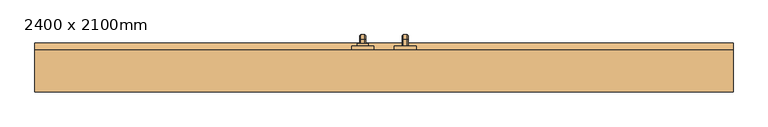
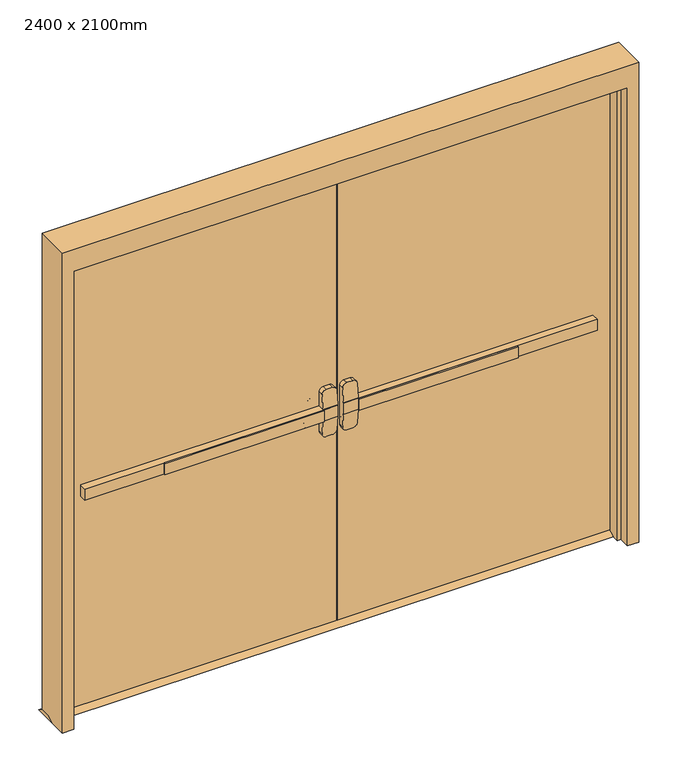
"""IFC4 building model written with IfcOpenShell, lengths in millimetres: door geometry, Дверь-Наружная-Двойная : 2400 x 2100mm."""

from ifc_helpers import new_model, si_unit, point, frame, frame_2d, origin, place, context, project, spatial, polyline, circle_curve, ellipse_curve, trimmed, segment, composite_curve, outline, extrude, faceted_brep, source, transform, mapped, element, save
from ifc_brep_helpers import plane_surface, cylinder_surface, revolved_surface, advanced_brep


def door_2400_x_2100mm_f4c4263e(model_context):
    return source(origin(), model_context, "Body", "SolidModel", [
        extrude(outline(polyline([(-766.1333333, 108.25), (-766.1333333, 114.6), (-76.2, 114.6), (-76.2, 108.25), (-766.1333333, 108.25)])), frame((0.0, 0.0, 974.6), z_axis=(0.0, 0.0, 1.0), x_axis=(1.0, 0.0, 0.0)), (0.0, 0.0, 1.0), 50.8),
        advanced_brep(
        [(-12.7, 114.6, 1025.4), (-76.2, 114.6, 1025.4), (-1111.1, 114.6, 1025.4), (-1111.1, 114.6, 974.6), (-76.2, 114.6, 974.6), (-12.7, 114.6, 974.6), (-1111.1, 146.35, 1025.4), (-76.2, 146.35, 1025.4), (-76.2, 146.35, 1088.9), (-57.15, 146.35, 1107.95), (-31.75, 146.35, 1107.95), (-12.7, 146.35, 1088.9), (-12.7, 146.35, 911.1), (-31.75, 146.35, 892.05), (-57.15, 146.35, 892.05), (-76.2, 146.35, 911.1), (-76.2, 146.35, 974.6), (-1111.1, 146.35, 974.6), (-12.7, 117.7752467, 1025.4), (-76.2, 117.7752467, 1025.4), (-12.7, 117.7752467, 974.6), (-12.7, 122.7854269, 911.1), (-12.7, 122.7854269, 1088.9), (-76.2, 117.7752467, 974.6), (-76.2, 122.7854269, 1088.9), (-76.2, 122.7854269, 911.1), (-57.15, 124.288481, 1107.95), (-31.75, 124.288481, 1107.95), (-31.75, 124.288481, 892.05), (-57.15, 124.288481, 892.05)],
        [
            (0, 1),
            (1, 2),
            (2, 3),
            (3, 4),
            (4, 5),
            (5, 0),
            (6, 7),
            (7, 8),
            (8, 9, circle_curve(frame((-57.15, 146.35, 1088.9), z_axis=(0.0, 1.0, 0.0), x_axis=(-1.0, 0.0, 0.0)), 19.05)),
            (9, 10),
            (10, 11, circle_curve(frame((-31.75, 146.35, 1088.9), z_axis=(0.0, 1.0, 0.0), x_axis=(-1.0, 0.0, 0.0)), 19.05)),
            (11, 12),
            (12, 13, circle_curve(frame((-31.75, 146.35, 911.1), z_axis=(0.0, 1.0, 0.0), x_axis=(-1.0, 0.0, 0.0)), 19.05)),
            (13, 14),
            (14, 15, circle_curve(frame((-57.15, 146.35, 911.1), z_axis=(0.0, 1.0, 0.0), x_axis=(-1.0, 0.0, 0.0)), 19.05)),
            (15, 16),
            (16, 17),
            (17, 6),
            (0, 18),
            (18, 19),
            (19, 7),
            (6, 2),
            (5, 20),
            (20, 21),
            (21, 12),
            (11, 22),
            (22, 18),
            (16, 23),
            (23, 20),
            (3, 17),
            (19, 24),
            (24, 8),
            (15, 25),
            (25, 23),
            (9, 26),
            (26, 27),
            (27, 10),
            (13, 28),
            (28, 29),
            (29, 14),
            (29, 25, ellipse_curve(frame((-57.15, 122.7854269, 911.1), z_axis=(0.0, 0.9969018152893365, 0.07865602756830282), x_axis=(0.0, -0.07865602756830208, 0.9969018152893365)), 19.1092038, 19.05)),
            (24, 26, ellipse_curve(frame((-57.15, 122.7854269, 1088.9), z_axis=(0.0, 0.9969018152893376, -0.07865602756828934), x_axis=(0.0, -0.078656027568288, -0.9969018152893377)), 19.1092038, 19.05)),
            (27, 22, ellipse_curve(frame((-31.75, 122.7854269, 1088.9), z_axis=(0.0, 0.9969018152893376, -0.07865602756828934), x_axis=(0.0, -0.078656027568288, -0.9969018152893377)), 19.1092038, 19.05)),
            (21, 28, ellipse_curve(frame((-31.75, 122.7854269, 911.1), z_axis=(0.0, 0.9969018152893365, 0.07865602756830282), x_axis=(0.0, -0.07865602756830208, 0.9969018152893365)), 19.1092038, 19.05)),
        ],
        [
            plane_surface(frame((-12.7, 114.6, 1025.4), z_axis=(0.0, -1.0, 0.0), x_axis=(1.0, 0.0, 0.0))),
            plane_surface(frame((-12.7, 146.35, 1025.4), z_axis=(0.0, 1.0, 0.0), x_axis=(-1.0, 0.0, 0.0))),
            plane_surface(frame((-1111.1, 114.6, 1025.4), z_axis=(0.0, 0.0, 1.0), x_axis=(0.0, 1.0, 0.0))),
            plane_surface(frame((-12.7, 114.6, 1025.4), z_axis=(1.0, 0.0, 0.0), x_axis=(0.0, 1.0, 0.0))),
            plane_surface(frame((-12.7, 114.6, 974.6), z_axis=(0.0, 0.0, -1.0), x_axis=(0.0, 1.0, 0.0))),
            plane_surface(frame((-1111.1, 114.6, 974.6), z_axis=(-1.0, 0.0, 0.0), x_axis=(0.0, 1.0, 0.0))),
            plane_surface(frame((-76.2, 117.7752467, 911.1), z_axis=(-1.0, 0.0, 0.0), x_axis=(0.0, 1.0, 0.0))),
            plane_surface(frame((-57.15, 117.7752467, 1107.95), z_axis=(0.0, 0.0, 1.0), x_axis=(0.0, 1.0, 0.0))),
            plane_surface(frame((-31.75, 117.7752467, 892.05), z_axis=(0.0, 0.0, -1.0), x_axis=(0.0, 1.0, 0.0))),
            cylinder_surface(frame((-57.15, 146.35, 911.1), z_axis=(0.0, -1.0, 0.0), x_axis=(-1.0, 0.0, 0.0)), 19.05),
            cylinder_surface(frame((-57.15, 146.35, 1088.9), z_axis=(0.0, -1.0, 0.0), x_axis=(-1.0, 0.0, 0.0)), 19.05),
            cylinder_surface(frame((-31.75, 146.35, 1088.9), z_axis=(0.0, -1.0, 0.0), x_axis=(-1.0, 0.0, 0.0)), 19.05),
            cylinder_surface(frame((-31.75, 146.35, 911.1), z_axis=(0.0, -1.0, 0.0), x_axis=(-1.0, 0.0, 0.0)), 19.05),
            plane_surface(frame((-76.2, 117.7752467, 1025.4), z_axis=(0.0, -0.9969018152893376, 0.07865602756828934), x_axis=(1.0, 0.0, 0.0))),
            plane_surface(frame((-76.2, 124.288481, 892.05), z_axis=(0.0, -0.9969018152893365, -0.07865602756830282), x_axis=(1.0, 0.0, 0.0))),
        ],
        [
            (0, [[1, 2, 3, 4, 5, 6]]),
            (1, [[7, 8, 9, 10, 11, 12, 13, 14, 15, 16, 17, 18]]),
            (2, [[-2, -1, 19, 20, 21, -7, 22]]),
            (3, [[23, 24, 25, -12, 26, 27, -19, -6]]),
            (4, [[-17, 28, 29, -23, -5, -4, 30]]),
            (5, [[-22, -18, -30, -3]]),
            (6, [[-21, 31, 32, -8]]),
            (6, [[33, 34, -28, -16]]),
            (7, [[35, 36, 37, -10]]),
            (8, [[38, 39, 40, -14]]),
            (9, [[-40, 41, -33, -15]]),
            (10, [[-32, 42, -35, -9]]),
            (11, [[-37, 43, -26, -11]]),
            (12, [[-25, 44, -38, -13]]),
            (13, [[-27, -43, -36, -42, -31, -20]]),
            (14, [[-29, -34, -41, -39, -44, -24]]),
        ],
    ),
        extrude(outline(polyline([(191.35, 15.0), (216.75, 0.0), (120.95, 0.0), (146.35, 15.0), (191.35, 15.0)])), frame((-1250.0, 0.0, 0.0), z_axis=(1.0, 0.0, 0.0), x_axis=(0.0, 1.0, 0.0)), (0.0, 0.0, 1.0), 2500.0),
        extrude(outline(polyline([(766.1333333, 108.25), (76.2, 108.25), (76.2, 114.6), (766.1333333, 114.6), (766.1333333, 108.25)])), frame((0.0, 0.0, 974.6), z_axis=(0.0, 0.0, 1.0), x_axis=(1.0, 0.0, 0.0)), (0.0, 0.0, 1.0), 50.8),
        advanced_brep(
        [(12.7, 114.6, 1025.4), (12.7, 114.6, 974.6), (76.2, 114.6, 974.6), (1111.1, 114.6, 974.6), (1111.1, 114.6, 1025.4), (76.2, 114.6, 1025.4), (1111.1, 146.35, 1025.4), (1111.1, 146.35, 974.6), (76.2, 146.35, 974.6), (76.2, 146.35, 911.1), (57.15, 146.35, 892.05), (31.75, 146.35, 892.05), (12.7, 146.35, 911.1), (12.7, 146.35, 1088.9), (31.75, 146.35, 1107.95), (57.15, 146.35, 1107.95), (76.2, 146.35, 1088.9), (76.2, 146.35, 1025.4), (76.2, 117.7752467, 1025.4), (12.7, 117.7752467, 1025.4), (12.7, 122.7854269, 1088.9), (12.7, 122.7854269, 911.1), (12.7, 117.7752467, 974.6), (76.2, 117.7752467, 974.6), (76.2, 122.7854269, 911.1), (76.2, 122.7854269, 1088.9), (31.75, 124.288481, 1107.95), (57.15, 124.288481, 1107.95), (57.15, 124.288481, 892.05), (31.75, 124.288481, 892.05)],
        [
            (0, 1),
            (1, 2),
            (2, 3),
            (3, 4),
            (4, 5),
            (5, 0),
            (6, 7),
            (7, 8),
            (8, 9),
            (9, 10, circle_curve(frame((57.15, 146.35, 911.1), z_axis=(0.0, 1.0, 0.0), x_axis=(1.0, 0.0, 0.0)), 19.05)),
            (10, 11),
            (11, 12, circle_curve(frame((31.75, 146.35, 911.1), z_axis=(0.0, 1.0, 0.0), x_axis=(1.0, 0.0, 0.0)), 19.05)),
            (12, 13),
            (13, 14, circle_curve(frame((31.75, 146.35, 1088.9), z_axis=(0.0, 1.0, 0.0), x_axis=(1.0, 0.0, 0.0)), 19.05)),
            (14, 15),
            (15, 16, circle_curve(frame((57.15, 146.35, 1088.9), z_axis=(0.0, 1.0, 0.0), x_axis=(1.0, 0.0, 0.0)), 19.05)),
            (16, 17),
            (17, 6),
            (4, 6),
            (17, 18),
            (18, 19),
            (19, 0),
            (19, 20),
            (20, 13),
            (12, 21),
            (21, 22),
            (22, 1),
            (7, 3),
            (22, 23),
            (23, 8),
            (23, 24),
            (24, 9),
            (16, 25),
            (25, 18),
            (14, 26),
            (26, 27),
            (27, 15),
            (10, 28),
            (28, 29),
            (29, 11),
            (24, 28, ellipse_curve(frame((57.15, 122.7854269, 911.1), z_axis=(0.0, 0.9969018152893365, 0.07865602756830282), x_axis=(0.0, -0.07865602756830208, 0.9969018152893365)), 19.1092038, 19.05)),
            (27, 25, ellipse_curve(frame((57.15, 122.7854269, 1088.9), z_axis=(0.0, 0.9969018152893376, -0.07865602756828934), x_axis=(0.0, -0.078656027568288, -0.9969018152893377)), 19.1092038, 19.05)),
            (20, 26, ellipse_curve(frame((31.75, 122.7854269, 1088.9), z_axis=(0.0, 0.9969018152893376, -0.07865602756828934), x_axis=(0.0, -0.078656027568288, -0.9969018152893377)), 19.1092038, 19.05)),
            (29, 21, ellipse_curve(frame((31.75, 122.7854269, 911.1), z_axis=(0.0, 0.9969018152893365, 0.07865602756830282), x_axis=(0.0, -0.07865602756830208, 0.9969018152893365)), 19.1092038, 19.05)),
        ],
        [
            plane_surface(frame((12.7, 114.6, 1025.4), z_axis=(0.0, -1.0, 0.0), x_axis=(-1.0, 0.0, 0.0))),
            plane_surface(frame((12.7, 146.35, 1025.4), z_axis=(0.0, 1.0, 0.0), x_axis=(1.0, 0.0, 0.0))),
            plane_surface(frame((1111.1, 114.6, 1025.4), z_axis=(0.0, 0.0, 1.0), x_axis=(0.0, 1.0, 0.0))),
            plane_surface(frame((12.7, 114.6, 1025.4), z_axis=(-1.0, 0.0, 0.0), x_axis=(0.0, 1.0, 0.0))),
            plane_surface(frame((12.7, 114.6, 974.6), z_axis=(0.0, 0.0, -1.0), x_axis=(0.0, 1.0, 0.0))),
            plane_surface(frame((1111.1, 114.6, 974.6), z_axis=(1.0, 0.0, 0.0), x_axis=(0.0, 1.0, 0.0))),
            plane_surface(frame((76.2, 117.7752467, 911.1), z_axis=(1.0, 0.0, 0.0), x_axis=(0.0, 1.0, 0.0))),
            plane_surface(frame((57.15, 117.7752467, 1107.95), z_axis=(0.0, 0.0, 1.0), x_axis=(0.0, 1.0, 0.0))),
            plane_surface(frame((31.75, 117.7752467, 892.05), z_axis=(0.0, 0.0, -1.0), x_axis=(0.0, 1.0, 0.0))),
            cylinder_surface(frame((57.15, 146.35, 911.1), z_axis=(0.0, -1.0, 0.0), x_axis=(1.0, 0.0, 0.0)), 19.05),
            cylinder_surface(frame((57.15, 146.35, 1088.9), z_axis=(0.0, -1.0, 0.0), x_axis=(1.0, 0.0, 0.0)), 19.05),
            cylinder_surface(frame((31.75, 146.35, 1088.9), z_axis=(0.0, -1.0, 0.0), x_axis=(1.0, 0.0, 0.0)), 19.05),
            cylinder_surface(frame((31.75, 146.35, 911.1), z_axis=(0.0, -1.0, 0.0), x_axis=(1.0, 0.0, 0.0)), 19.05),
            plane_surface(frame((76.2, 117.7752467, 1025.4), z_axis=(0.0, -0.9969018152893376, 0.07865602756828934), x_axis=(-1.0, 0.0, 0.0))),
            plane_surface(frame((76.2, 124.288481, 892.05), z_axis=(0.0, -0.9969018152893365, -0.07865602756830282), x_axis=(-1.0, 0.0, 0.0))),
        ],
        [
            (0, [[1, 2, 3, 4, 5, 6]]),
            (1, [[7, 8, 9, 10, 11, 12, 13, 14, 15, 16, 17, 18]]),
            (2, [[19, -18, 20, 21, 22, -6, -5]]),
            (3, [[-1, -22, 23, 24, -13, 25, 26, 27]]),
            (4, [[28, -3, -2, -27, 29, 30, -8]]),
            (5, [[-4, -28, -7, -19]]),
            (6, [[-9, -30, 31, 32]]),
            (6, [[-17, 33, 34, -20]]),
            (7, [[-15, 35, 36, 37]]),
            (8, [[-11, 38, 39, 40]]),
            (9, [[-10, -32, 41, -38]]),
            (10, [[-16, -37, 42, -33]]),
            (11, [[-14, -24, 43, -35]]),
            (12, [[-12, -40, 44, -25]]),
            (13, [[-21, -34, -42, -36, -43, -23]]),
            (14, [[-26, -44, -39, -41, -31, -29]]),
        ],
    ),
        advanced_brep(
        [(66.2, 204.05, 1001.190625), (66.2, 204.05, 998.809375), (69.771875, 204.05, 995.2375), (82.6284594, 204.05, 995.2375), (86.2, 204.05, 998.8090406), (86.2, 204.05, 1001.190625), (82.628125, 204.05, 1004.7625), (69.771875, 204.05, 1004.7625), (66.2, 204.05, 874.609375), (69.771875, 204.05, 871.0375), (82.628125, 204.05, 871.0375), (86.2, 204.05, 874.609375), (86.2, 204.05, 876.9909594), (82.6284594, 204.05, 880.5625), (69.771875, 204.05, 880.5625), (66.2, 204.05, 876.990625), (66.2, 229.45, 1001.190625), (66.2, 243.340625, 987.3), (66.2, 243.340625, 888.5), (66.2, 229.45, 874.609375), (66.2, 229.45, 876.990625), (66.2, 240.959375, 888.5), (66.2, 240.959375, 987.3), (66.2, 229.45, 998.809375), (69.771875, 229.45, 995.2375), (82.6284594, 229.45, 995.2375), (86.2, 229.45, 998.8090406), (86.2, 240.9590406, 987.3), (86.2, 240.9590406, 888.5), (86.2, 229.45, 876.9909594), (86.2, 229.45, 874.609375), (86.2, 243.340625, 888.5), (86.2, 243.340625, 987.3), (86.2, 229.45, 1001.190625), (82.628125, 229.45, 1004.7625), (69.771875, 229.45, 1004.7625), (69.771875, 237.3875, 987.3), (82.6284594, 237.3875, 987.3), (82.628125, 246.9125, 987.3), (69.771875, 246.9125, 987.3), (69.771875, 237.3875, 888.5), (82.6284594, 237.3875, 888.5), (82.628125, 246.9125, 888.5), (69.771875, 246.9125, 888.5), (69.771875, 229.45, 880.5625), (82.6284594, 229.45, 880.5625), (82.628125, 229.45, 871.0375), (69.771875, 229.45, 871.0375)],
        [
            (0, 1),
            (1, 2, circle_curve(frame((69.771875, 204.05, 998.809375), z_axis=(0.0, -1.0, 0.0), x_axis=(0.0, 0.0, 1.0)), 3.571875)),
            (2, 3),
            (3, 4, circle_curve(frame((82.6284594, 204.05, 998.8090406), z_axis=(0.0, -1.0, 0.0), x_axis=(0.0, 0.0, 1.0)), 3.5715406)),
            (4, 5),
            (5, 6, circle_curve(frame((82.628125, 204.05, 1001.190625), z_axis=(0.0, -1.0, 0.0), x_axis=(0.0, 0.0, 1.0)), 3.571875)),
            (6, 7),
            (7, 0, circle_curve(frame((69.771875, 204.05, 1001.190625), z_axis=(0.0, -1.0, 0.0), x_axis=(0.0, 0.0, 1.0)), 3.571875)),
            (8, 9, circle_curve(frame((69.771875, 204.05, 874.609375), z_axis=(0.0, -1.0, 0.0), x_axis=(0.0, 0.0, -1.0)), 3.571875)),
            (9, 10),
            (10, 11, circle_curve(frame((82.628125, 204.05, 874.609375), z_axis=(0.0, -1.0, 0.0), x_axis=(0.0, 0.0, -1.0)), 3.571875)),
            (11, 12),
            (12, 13, circle_curve(frame((82.6284594, 204.05, 876.9909594), z_axis=(0.0, -1.0, 0.0), x_axis=(0.0, 0.0, -1.0)), 3.5715406)),
            (13, 14),
            (14, 15, circle_curve(frame((69.771875, 204.05, 876.990625), z_axis=(0.0, -1.0, 0.0), x_axis=(0.0, 0.0, -1.0)), 3.571875)),
            (15, 8),
            (0, 16),
            (16, 17, circle_curve(frame((66.2, 229.45, 987.3), z_axis=(-1.0, 0.0, 0.0), x_axis=(0.0, 0.0, 1.0)), 13.890625)),
            (17, 18),
            (18, 19, circle_curve(frame((66.2, 229.45, 888.5), z_axis=(-1.0, 0.0, 0.0), x_axis=(0.0, 1.0, 0.0)), 13.890625)),
            (19, 8),
            (15, 20),
            (20, 21, circle_curve(frame((66.2, 229.45, 888.5), z_axis=(1.0, 0.0, 0.0), x_axis=(0.0, 1.0, 0.0)), 11.509375)),
            (21, 22),
            (22, 23, circle_curve(frame((66.2, 229.45, 987.3), z_axis=(1.0, 0.0, 0.0), x_axis=(0.0, 0.0, 1.0)), 11.509375)),
            (23, 1),
            (23, 24, circle_curve(frame((69.771875, 229.45, 998.809375), z_axis=(0.0, -1.0, 0.0), x_axis=(0.0, 0.0, 1.0)), 3.571875)),
            (24, 2),
            (24, 25),
            (25, 3),
            (25, 26, circle_curve(frame((82.6284594, 229.45, 998.8090406), z_axis=(0.0, -1.0, 0.0), x_axis=(0.0, 0.0, 1.0)), 3.5715406)),
            (26, 4),
            (26, 27, circle_curve(frame((86.2, 229.45, 987.3), z_axis=(-1.0, 0.0, 0.0), x_axis=(0.0, 0.0, 1.0)), 11.5090406)),
            (27, 28),
            (28, 29, circle_curve(frame((86.2, 229.45, 888.5), z_axis=(-1.0, 0.0, 0.0), x_axis=(0.0, 1.0, 0.0)), 11.5090406)),
            (29, 12),
            (11, 30),
            (30, 31, circle_curve(frame((86.2, 229.45, 888.5), z_axis=(1.0, 0.0, 0.0), x_axis=(0.0, 1.0, 0.0)), 13.890625)),
            (31, 32),
            (32, 33, circle_curve(frame((86.2, 229.45, 987.3), z_axis=(1.0, 0.0, 0.0), x_axis=(0.0, 0.0, 1.0)), 13.890625)),
            (33, 5),
            (33, 34, circle_curve(frame((82.628125, 229.45, 1001.190625), z_axis=(0.0, -1.0, 0.0), x_axis=(0.0, 0.0, 1.0)), 3.571875)),
            (34, 6),
            (34, 35),
            (35, 7),
            (35, 16, circle_curve(frame((69.771875, 229.45, 1001.190625), z_axis=(0.0, -1.0, 0.0), x_axis=(0.0, 0.0, 1.0)), 3.571875)),
            (36, 24, circle_curve(frame((69.771875, 229.45, 987.3), z_axis=(1.0, 0.0, 0.0), x_axis=(0.0, 0.0, 1.0)), 7.9375)),
            (22, 36, circle_curve(frame((69.771875, 240.959375, 987.3), z_axis=(0.0, 0.0, 1.0), x_axis=(0.0, 1.0, 0.0)), 3.571875)),
            (37, 25, circle_curve(frame((82.6284594, 229.45, 987.3), z_axis=(1.0, 0.0, 0.0), x_axis=(0.0, 0.0, 1.0)), 7.9375)),
            (36, 37),
            (37, 27, circle_curve(frame((82.6284594, 240.9590406, 987.3), z_axis=(0.0, 0.0, 1.0), x_axis=(0.0, 1.0, 0.0)), 3.5715406)),
            (38, 34, circle_curve(frame((82.628125, 229.45, 987.3), z_axis=(1.0, 0.0, 0.0), x_axis=(0.0, 0.0, 1.0)), 17.4625)),
            (32, 38, circle_curve(frame((82.628125, 243.340625, 987.3), z_axis=(0.0, 0.0, 1.0), x_axis=(0.0, 1.0, 0.0)), 3.571875)),
            (39, 35, circle_curve(frame((69.771875, 229.45, 987.3), z_axis=(1.0, 0.0, 0.0), x_axis=(0.0, 0.0, 1.0)), 17.4625)),
            (38, 39),
            (39, 17, circle_curve(frame((69.771875, 243.340625, 987.3), z_axis=(0.0, 0.0, 1.0), x_axis=(0.0, 1.0, 0.0)), 3.571875)),
            (21, 40, circle_curve(frame((69.771875, 240.959375, 888.5), z_axis=(0.0, 0.0, 1.0), x_axis=(0.0, 1.0, 0.0)), 3.571875)),
            (40, 36),
            (40, 41),
            (41, 37),
            (41, 28, circle_curve(frame((82.6284594, 240.9590406, 888.5), z_axis=(0.0, 0.0, 1.0), x_axis=(0.0, 1.0, 0.0)), 3.5715406)),
            (31, 42, circle_curve(frame((82.628125, 243.340625, 888.5), z_axis=(0.0, 0.0, 1.0), x_axis=(0.0, 1.0, 0.0)), 3.571875)),
            (42, 38),
            (42, 43),
            (43, 39),
            (43, 18, circle_curve(frame((69.771875, 243.340625, 888.5), z_axis=(0.0, 0.0, 1.0), x_axis=(0.0, 1.0, 0.0)), 3.571875)),
            (44, 40, circle_curve(frame((69.771875, 229.45, 888.5), z_axis=(1.0, 0.0, 0.0), x_axis=(0.0, 1.0, 0.0)), 7.9375)),
            (20, 44, circle_curve(frame((69.771875, 229.45, 876.990625), z_axis=(0.0, 1.0, 0.0), x_axis=(0.0, 0.0, -1.0)), 3.571875)),
            (45, 41, circle_curve(frame((82.6284594, 229.45, 888.5), z_axis=(1.0, 0.0, 0.0), x_axis=(0.0, 1.0, 0.0)), 7.9375)),
            (44, 45),
            (45, 29, circle_curve(frame((82.6284594, 229.45, 876.9909594), z_axis=(0.0, 1.0, 0.0), x_axis=(0.0, 0.0, -1.0)), 3.5715406)),
            (46, 42, circle_curve(frame((82.628125, 229.45, 888.5), z_axis=(1.0, 0.0, 0.0), x_axis=(0.0, 1.0, 0.0)), 17.4625)),
            (30, 46, circle_curve(frame((82.628125, 229.45, 874.609375), z_axis=(0.0, 1.0, 0.0), x_axis=(0.0, 0.0, -1.0)), 3.571875)),
            (47, 43, circle_curve(frame((69.771875, 229.45, 888.5), z_axis=(1.0, 0.0, 0.0), x_axis=(0.0, 1.0, 0.0)), 17.4625)),
            (46, 47),
            (47, 19, circle_curve(frame((69.771875, 229.45, 874.609375), z_axis=(0.0, 1.0, 0.0), x_axis=(0.0, 0.0, -1.0)), 3.571875)),
            (14, 44),
            (13, 45),
            (10, 46),
            (9, 47),
        ],
        [
            plane_surface(frame((76.2, 204.05, 1000.0), z_axis=(0.0, -1.0, 0.0), x_axis=(1.0, 0.0, 0.0))),
            plane_surface(frame((76.2, 204.05, 875.8), z_axis=(0.0, -1.0, 0.0), x_axis=(1.0, 0.0, 0.0))),
            plane_surface(frame((66.2, 204.05, 1001.190625), z_axis=(-1.0, 0.0, 0.0), x_axis=(0.0, 1.0, 0.0))),
            cylinder_surface(frame((69.771875, 204.05, 998.809375), z_axis=(0.0, -1.0, 0.0), x_axis=(0.0, 0.0, 1.0)), 3.571875),
            plane_surface(frame((69.771875, 204.05, 995.2375), z_axis=(0.0, 0.0, -1.0), x_axis=(0.0, 1.0, 0.0))),
            cylinder_surface(frame((82.6284594, 204.05, 998.8090406), z_axis=(0.0, -1.0, 0.0), x_axis=(0.0, 0.0, 1.0)), 3.5715406),
            plane_surface(frame((86.2, 204.05, 998.8090406), z_axis=(1.0, 0.0, 0.0), x_axis=(0.0, 1.0, 0.0))),
            cylinder_surface(frame((82.628125, 204.05, 1001.190625), z_axis=(0.0, -1.0, 0.0), x_axis=(0.0, 0.0, 1.0)), 3.571875),
            plane_surface(frame((82.628125, 204.05, 1004.7625), z_axis=(0.0, 0.0, 1.0), x_axis=(0.0, 1.0, 0.0))),
            cylinder_surface(frame((69.771875, 204.05, 1001.190625), z_axis=(0.0, -1.0, 0.0), x_axis=(0.0, 0.0, 1.0)), 3.571875),
            revolved_surface(trimmed(ellipse_curve(frame((69.771875, 229.45, 998.809375), z_axis=(0.0, -1.0, 0.0), x_axis=(0.0, 0.0, 1.0)), 3.571875, 3.571875), [point((66.2, 229.45, 998.809375))], [point((69.771875, 229.45, 995.2375))], True, "CARTESIAN"), (76.2, 229.45, 987.3), (-1.0, 0.0, 0.0)),
            revolved_surface(polyline([(69.771875, 229.45, 995.2375), (82.6284594, 229.45, 995.2375)]), (76.2, 229.45, 987.3), (-1.0, 0.0, 0.0)),
            revolved_surface(trimmed(ellipse_curve(frame((82.6284594, 229.45, 998.8090406), z_axis=(0.0, -1.0, 0.0), x_axis=(0.0, 0.0, 1.0)), 3.5715406, 3.5715406), [point((82.6284594, 229.45, 995.2375))], [point((86.2, 229.45, 998.8090406))], True, "CARTESIAN"), (76.2, 229.45, 987.3), (-1.0, 0.0, 0.0)),
            revolved_surface(trimmed(ellipse_curve(frame((82.628125, 229.45, 1001.190625), z_axis=(0.0, -1.0, 0.0), x_axis=(0.0, 0.0, 1.0)), 3.571875, 3.571875), [point((86.2, 229.45, 1001.190625))], [point((82.628125, 229.45, 1004.7625))], True, "CARTESIAN"), (76.2, 229.45, 987.3), (-1.0, 0.0, 0.0)),
            cylinder_surface(frame((76.2, 229.45, 987.3), z_axis=(-1.0, 0.0, 0.0), x_axis=(0.0, 0.0, 1.0)), 17.4625),
            revolved_surface(trimmed(ellipse_curve(frame((69.771875, 229.45, 1001.190625), z_axis=(0.0, -1.0, 0.0), x_axis=(0.0, 0.0, 1.0)), 3.571875, 3.571875), [point((69.771875, 229.45, 1004.7625))], [point((66.2, 229.45, 1001.190625))], True, "CARTESIAN"), (76.2, 229.45, 987.3), (-1.0, 0.0, 0.0)),
            cylinder_surface(frame((69.771875, 240.959375, 987.3), z_axis=(0.0, 0.0, 1.0), x_axis=(0.0, 1.0, 0.0)), 3.571875),
            plane_surface(frame((69.771875, 237.3875, 987.3), z_axis=(0.0, -1.0, 0.0), x_axis=(0.0, 0.0, -1.0))),
            cylinder_surface(frame((82.6284594, 240.9590406, 987.3), z_axis=(0.0, 0.0, 1.0), x_axis=(0.0, 1.0, 0.0)), 3.5715406),
            cylinder_surface(frame((82.628125, 243.340625, 987.3), z_axis=(0.0, 0.0, 1.0), x_axis=(0.0, 1.0, 0.0)), 3.571875),
            plane_surface(frame((82.628125, 246.9125, 987.3), z_axis=(0.0, 1.0, 0.0), x_axis=(0.0, 0.0, -1.0))),
            cylinder_surface(frame((69.771875, 243.340625, 987.3), z_axis=(0.0, 0.0, 1.0), x_axis=(0.0, 1.0, 0.0)), 3.571875),
            revolved_surface(trimmed(ellipse_curve(frame((69.771875, 240.959375, 888.5), z_axis=(0.0, 0.0, 1.0), x_axis=(0.0, 1.0, 0.0)), 3.571875, 3.571875), [point((66.2, 240.959375, 888.5))], [point((69.771875, 237.3875, 888.5))], True, "CARTESIAN"), (76.2, 229.45, 888.5), (-1.0, 0.0, 0.0)),
            revolved_surface(polyline([(69.771875, 237.3875, 888.5), (82.6284594, 237.3875, 888.5)]), (76.2, 229.45, 888.5), (-1.0, 0.0, 0.0)),
            revolved_surface(trimmed(ellipse_curve(frame((82.6284594, 240.9590406, 888.5), z_axis=(0.0, 0.0, 1.0), x_axis=(0.0, 1.0, 0.0)), 3.5715406, 3.5715406), [point((82.6284594, 237.3875, 888.5))], [point((86.2, 240.9590406, 888.5))], True, "CARTESIAN"), (76.2, 229.45, 888.5), (-1.0, 0.0, 0.0)),
            revolved_surface(trimmed(ellipse_curve(frame((82.628125, 243.340625, 888.5), z_axis=(0.0, 0.0, 1.0), x_axis=(0.0, 1.0, 0.0)), 3.571875, 3.571875), [point((86.2, 243.340625, 888.5))], [point((82.628125, 246.9125, 888.5))], True, "CARTESIAN"), (76.2, 229.45, 888.5), (-1.0, 0.0, 0.0)),
            cylinder_surface(frame((76.2, 229.45, 888.5), z_axis=(-1.0, 0.0, 0.0), x_axis=(0.0, 1.0, 0.0)), 17.4625),
            revolved_surface(trimmed(ellipse_curve(frame((69.771875, 243.340625, 888.5), z_axis=(0.0, 0.0, 1.0), x_axis=(0.0, 1.0, 0.0)), 3.571875, 3.571875), [point((69.771875, 246.9125, 888.5))], [point((66.2, 243.340625, 888.5))], True, "CARTESIAN"), (76.2, 229.45, 888.5), (-1.0, 0.0, 0.0)),
            cylinder_surface(frame((69.771875, 229.45, 876.990625), z_axis=(0.0, 1.0, 0.0), x_axis=(0.0, 0.0, -1.0)), 3.571875),
            plane_surface(frame((69.771875, 229.45, 880.5625), z_axis=(0.0, 0.0, 1.0), x_axis=(0.0, -1.0, 0.0))),
            cylinder_surface(frame((82.6284594, 229.45, 876.9909594), z_axis=(0.0, 1.0, 0.0), x_axis=(0.0, 0.0, -1.0)), 3.5715406),
            cylinder_surface(frame((82.628125, 229.45, 874.609375), z_axis=(0.0, 1.0, 0.0), x_axis=(0.0, 0.0, -1.0)), 3.571875),
            plane_surface(frame((82.628125, 229.45, 871.0375), z_axis=(0.0, 0.0, -1.0), x_axis=(0.0, -1.0, 0.0))),
            cylinder_surface(frame((69.771875, 229.45, 874.609375), z_axis=(0.0, 1.0, 0.0), x_axis=(0.0, 0.0, -1.0)), 3.571875),
        ],
        [
            (0, [[1, 2, 3, 4, 5, 6, 7, 8]]),
            (1, [[9, 10, 11, 12, 13, 14, 15, 16]]),
            (2, [[-1, 17, 18, 19, 20, 21, -16, 22, 23, 24, 25, 26]]),
            (3, [[-2, -26, 27, 28]]),
            (4, [[-3, -28, 29, 30]]),
            (5, [[-4, -30, 31, 32]]),
            (6, [[-5, -32, 33, 34, 35, 36, -12, 37, 38, 39, 40, 41]]),
            (7, [[-6, -41, 42, 43]]),
            (8, [[-7, -43, 44, 45]]),
            (9, [[-8, -45, 46, -17]]),
            (10, [[47, -27, -25, 48]]),
            (11, [[49, -29, -47, 50]]),
            (12, [[-33, -31, -49, 51]]),
            (13, [[52, -42, -40, 53]]),
            (14, [[54, -44, -52, 55]]),
            (15, [[-18, -46, -54, 56]]),
            (16, [[-48, -24, 57, 58]]),
            (17, [[-50, -58, 59, 60]]),
            (18, [[-51, -60, 61, -34]]),
            (19, [[-53, -39, 62, 63]]),
            (20, [[-55, -63, 64, 65]]),
            (21, [[-56, -65, 66, -19]]),
            (22, [[67, -57, -23, 68]]),
            (23, [[69, -59, -67, 70]]),
            (24, [[-35, -61, -69, 71]]),
            (25, [[72, -62, -38, 73]]),
            (26, [[74, -64, -72, 75]]),
            (27, [[-20, -66, -74, 76]]),
            (28, [[-68, -22, -15, 77]]),
            (29, [[-70, -77, -14, 78]]),
            (30, [[-71, -78, -13, -36]]),
            (31, [[-73, -37, -11, 79]]),
            (32, [[-75, -79, -10, 80]]),
            (33, [[-76, -80, -9, -21]]),
        ],
    ),
        extrude(outline(composite_curve([segment(trimmed(circle_curve(frame_2d((1094.2338574, 76.2)), 90.1286291), [point((1175.0, 116.2))], [point((1175.0, 36.2))], False, "CARTESIAN"), True, "CONTINUOUS"), segment(polyline([(1175.0, 36.2), (825.0, 36.2)]), True, "CONTINUOUS"), segment(trimmed(circle_curve(frame_2d((905.7661426, 76.2)), 90.1286291), [point((825.0, 36.2))], [point((825.0, 116.2))], False, "CARTESIAN"), True, "CONTINUOUS"), segment(polyline([(825.0, 116.2), (1175.0, 116.2)]), True, "CONTINUOUS")], self_intersect=False)), frame((0.0, 191.35, 0.0), z_axis=(0.0, 1.0, 0.0), x_axis=(0.0, 0.0, 1.0)), (0.0, 0.0, 1.0), 15.0),
        advanced_brep(
        [(-86.2, 204.05, 1001.190625), (-86.2, 204.05, 998.809375), (-82.628125, 204.05, 995.2375), (-69.7715406, 204.05, 995.2375), (-66.2, 204.05, 998.8090406), (-66.2, 204.05, 1001.190625), (-69.771875, 204.05, 1004.7625), (-82.628125, 204.05, 1004.7625), (-86.2, 204.05, 874.609375), (-82.628125, 204.05, 871.0375), (-69.771875, 204.05, 871.0375), (-66.2, 204.05, 874.609375), (-66.2, 204.05, 876.9909594), (-69.7715406, 204.05, 880.5625), (-82.628125, 204.05, 880.5625), (-86.2, 204.05, 876.990625), (-86.2, 229.45, 1001.190625), (-86.2, 243.340625, 987.3), (-86.2, 243.340625, 888.5), (-86.2, 229.45, 874.609375), (-86.2, 229.45, 876.990625), (-86.2, 240.959375, 888.5), (-86.2, 240.959375, 987.3), (-86.2, 229.45, 998.809375), (-82.628125, 229.45, 995.2375), (-69.7715406, 229.45, 995.2375), (-66.2, 229.45, 998.8090406), (-66.2, 240.9590406, 987.3), (-66.2, 240.9590406, 888.5), (-66.2, 229.45, 876.9909594), (-66.2, 229.45, 874.609375), (-66.2, 243.340625, 888.5), (-66.2, 243.340625, 987.3), (-66.2, 229.45, 1001.190625), (-69.771875, 229.45, 1004.7625), (-82.628125, 229.45, 1004.7625), (-82.628125, 237.3875, 987.3), (-69.7715406, 237.3875, 987.3), (-69.771875, 246.9125, 987.3), (-82.628125, 246.9125, 987.3), (-82.628125, 237.3875, 888.5), (-69.7715406, 237.3875, 888.5), (-69.771875, 246.9125, 888.5), (-82.628125, 246.9125, 888.5), (-82.628125, 229.45, 880.5625), (-69.7715406, 229.45, 880.5625), (-69.771875, 229.45, 871.0375), (-82.628125, 229.45, 871.0375)],
        [
            (0, 1),
            (1, 2, circle_curve(frame((-82.628125, 204.05, 998.809375), z_axis=(0.0, -1.0, 0.0), x_axis=(0.0, 0.0, 1.0)), 3.571875)),
            (2, 3),
            (3, 4, circle_curve(frame((-69.7715406, 204.05, 998.8090406), z_axis=(0.0, -1.0, 0.0), x_axis=(0.0, 0.0, 1.0)), 3.5715406)),
            (4, 5),
            (5, 6, circle_curve(frame((-69.771875, 204.05, 1001.190625), z_axis=(0.0, -1.0, 0.0), x_axis=(0.0, 0.0, 1.0)), 3.571875)),
            (6, 7),
            (7, 0, circle_curve(frame((-82.628125, 204.05, 1001.190625), z_axis=(0.0, -1.0, 0.0), x_axis=(0.0, 0.0, 1.0)), 3.571875)),
            (8, 9, circle_curve(frame((-82.628125, 204.05, 874.609375), z_axis=(0.0, -1.0, 0.0), x_axis=(0.0, 0.0, -1.0)), 3.571875)),
            (9, 10),
            (10, 11, circle_curve(frame((-69.771875, 204.05, 874.609375), z_axis=(0.0, -1.0, 0.0), x_axis=(0.0, 0.0, -1.0)), 3.571875)),
            (11, 12),
            (12, 13, circle_curve(frame((-69.7715406, 204.05, 876.9909594), z_axis=(0.0, -1.0, 0.0), x_axis=(0.0, 0.0, -1.0)), 3.5715406)),
            (13, 14),
            (14, 15, circle_curve(frame((-82.628125, 204.05, 876.990625), z_axis=(0.0, -1.0, 0.0), x_axis=(0.0, 0.0, -1.0)), 3.571875)),
            (15, 8),
            (0, 16),
            (16, 17, circle_curve(frame((-86.2, 229.45, 987.3), z_axis=(-1.0, 0.0, 0.0), x_axis=(0.0, 0.0, 1.0)), 13.890625)),
            (17, 18),
            (18, 19, circle_curve(frame((-86.2, 229.45, 888.5), z_axis=(-1.0, 0.0, 0.0), x_axis=(0.0, 1.0, 0.0)), 13.890625)),
            (19, 8),
            (15, 20),
            (20, 21, circle_curve(frame((-86.2, 229.45, 888.5), z_axis=(1.0, 0.0, 0.0), x_axis=(0.0, 1.0, 0.0)), 11.509375)),
            (21, 22),
            (22, 23, circle_curve(frame((-86.2, 229.45, 987.3), z_axis=(1.0, 0.0, 0.0), x_axis=(0.0, 0.0, 1.0)), 11.509375)),
            (23, 1),
            (23, 24, circle_curve(frame((-82.628125, 229.45, 998.809375), z_axis=(0.0, -1.0, 0.0), x_axis=(0.0, 0.0, 1.0)), 3.571875)),
            (24, 2),
            (24, 25),
            (25, 3),
            (25, 26, circle_curve(frame((-69.7715406, 229.45, 998.8090406), z_axis=(0.0, -1.0, 0.0), x_axis=(0.0, 0.0, 1.0)), 3.5715406)),
            (26, 4),
            (26, 27, circle_curve(frame((-66.2, 229.45, 987.3), z_axis=(-1.0, 0.0, 0.0), x_axis=(0.0, 0.0, 1.0)), 11.5090406)),
            (27, 28),
            (28, 29, circle_curve(frame((-66.2, 229.45, 888.5), z_axis=(-1.0, 0.0, 0.0), x_axis=(0.0, 1.0, 0.0)), 11.5090406)),
            (29, 12),
            (11, 30),
            (30, 31, circle_curve(frame((-66.2, 229.45, 888.5), z_axis=(1.0, 0.0, 0.0), x_axis=(0.0, 1.0, 0.0)), 13.890625)),
            (31, 32),
            (32, 33, circle_curve(frame((-66.2, 229.45, 987.3), z_axis=(1.0, 0.0, 0.0), x_axis=(0.0, 0.0, 1.0)), 13.890625)),
            (33, 5),
            (33, 34, circle_curve(frame((-69.771875, 229.45, 1001.190625), z_axis=(0.0, -1.0, 0.0), x_axis=(0.0, 0.0, 1.0)), 3.571875)),
            (34, 6),
            (34, 35),
            (35, 7),
            (35, 16, circle_curve(frame((-82.628125, 229.45, 1001.190625), z_axis=(0.0, -1.0, 0.0), x_axis=(0.0, 0.0, 1.0)), 3.571875)),
            (36, 24, circle_curve(frame((-82.628125, 229.45, 987.3), z_axis=(1.0, 0.0, 0.0), x_axis=(0.0, 0.0, 1.0)), 7.9375)),
            (22, 36, circle_curve(frame((-82.628125, 240.959375, 987.3), z_axis=(0.0, 0.0, 1.0), x_axis=(0.0, 1.0, 0.0)), 3.571875)),
            (37, 25, circle_curve(frame((-69.7715406, 229.45, 987.3), z_axis=(1.0, 0.0, 0.0), x_axis=(0.0, 0.0, 1.0)), 7.9375)),
            (36, 37),
            (37, 27, circle_curve(frame((-69.7715406, 240.9590406, 987.3), z_axis=(0.0, 0.0, 1.0), x_axis=(0.0, 1.0, 0.0)), 3.5715406)),
            (38, 34, circle_curve(frame((-69.771875, 229.45, 987.3), z_axis=(1.0, 0.0, 0.0), x_axis=(0.0, 0.0, 1.0)), 17.4625)),
            (32, 38, circle_curve(frame((-69.771875, 243.340625, 987.3), z_axis=(0.0, 0.0, 1.0), x_axis=(0.0, 1.0, 0.0)), 3.571875)),
            (39, 35, circle_curve(frame((-82.628125, 229.45, 987.3), z_axis=(1.0, 0.0, 0.0), x_axis=(0.0, 0.0, 1.0)), 17.4625)),
            (38, 39),
            (39, 17, circle_curve(frame((-82.628125, 243.340625, 987.3), z_axis=(0.0, 0.0, 1.0), x_axis=(0.0, 1.0, 0.0)), 3.571875)),
            (21, 40, circle_curve(frame((-82.628125, 240.959375, 888.5), z_axis=(0.0, 0.0, 1.0), x_axis=(0.0, 1.0, 0.0)), 3.571875)),
            (40, 36),
            (40, 41),
            (41, 37),
            (41, 28, circle_curve(frame((-69.7715406, 240.9590406, 888.5), z_axis=(0.0, 0.0, 1.0), x_axis=(0.0, 1.0, 0.0)), 3.5715406)),
            (31, 42, circle_curve(frame((-69.771875, 243.340625, 888.5), z_axis=(0.0, 0.0, 1.0), x_axis=(0.0, 1.0, 0.0)), 3.571875)),
            (42, 38),
            (42, 43),
            (43, 39),
            (43, 18, circle_curve(frame((-82.628125, 243.340625, 888.5), z_axis=(0.0, 0.0, 1.0), x_axis=(0.0, 1.0, 0.0)), 3.571875)),
            (44, 40, circle_curve(frame((-82.628125, 229.45, 888.5), z_axis=(1.0, 0.0, 0.0), x_axis=(0.0, 1.0, 0.0)), 7.9375)),
            (20, 44, circle_curve(frame((-82.628125, 229.45, 876.990625), z_axis=(0.0, 1.0, 0.0), x_axis=(0.0, 0.0, -1.0)), 3.571875)),
            (45, 41, circle_curve(frame((-69.7715406, 229.45, 888.5), z_axis=(1.0, 0.0, 0.0), x_axis=(0.0, 1.0, 0.0)), 7.9375)),
            (44, 45),
            (45, 29, circle_curve(frame((-69.7715406, 229.45, 876.9909594), z_axis=(0.0, 1.0, 0.0), x_axis=(0.0, 0.0, -1.0)), 3.5715406)),
            (46, 42, circle_curve(frame((-69.771875, 229.45, 888.5), z_axis=(1.0, 0.0, 0.0), x_axis=(0.0, 1.0, 0.0)), 17.4625)),
            (30, 46, circle_curve(frame((-69.771875, 229.45, 874.609375), z_axis=(0.0, 1.0, 0.0), x_axis=(0.0, 0.0, -1.0)), 3.571875)),
            (47, 43, circle_curve(frame((-82.628125, 229.45, 888.5), z_axis=(1.0, 0.0, 0.0), x_axis=(0.0, 1.0, 0.0)), 17.4625)),
            (46, 47),
            (47, 19, circle_curve(frame((-82.628125, 229.45, 874.609375), z_axis=(0.0, 1.0, 0.0), x_axis=(0.0, 0.0, -1.0)), 3.571875)),
            (14, 44),
            (13, 45),
            (10, 46),
            (9, 47),
        ],
        [
            plane_surface(frame((-76.2, 204.05, 1000.0), z_axis=(0.0, -1.0, 0.0), x_axis=(1.0, 0.0, 0.0))),
            plane_surface(frame((-76.2, 204.05, 875.8), z_axis=(0.0, -1.0, 0.0), x_axis=(1.0, 0.0, 0.0))),
            plane_surface(frame((-86.2, 204.05, 1001.190625), z_axis=(-1.0, 0.0, 0.0), x_axis=(0.0, 1.0, 0.0))),
            cylinder_surface(frame((-82.628125, 204.05, 998.809375), z_axis=(0.0, -1.0, 0.0), x_axis=(0.0, 0.0, 1.0)), 3.571875),
            plane_surface(frame((-82.628125, 204.05, 995.2375), z_axis=(0.0, 0.0, -1.0), x_axis=(0.0, 1.0, 0.0))),
            cylinder_surface(frame((-69.7715406, 204.05, 998.8090406), z_axis=(0.0, -1.0, 0.0), x_axis=(0.0, 0.0, 1.0)), 3.5715406),
            plane_surface(frame((-66.2, 204.05, 998.8090406), z_axis=(1.0, 0.0, 0.0), x_axis=(0.0, 1.0, 0.0))),
            cylinder_surface(frame((-69.771875, 204.05, 1001.190625), z_axis=(0.0, -1.0, 0.0), x_axis=(0.0, 0.0, 1.0)), 3.571875),
            plane_surface(frame((-69.771875, 204.05, 1004.7625), z_axis=(0.0, 0.0, 1.0), x_axis=(0.0, 1.0, 0.0))),
            cylinder_surface(frame((-82.628125, 204.05, 1001.190625), z_axis=(0.0, -1.0, 0.0), x_axis=(0.0, 0.0, 1.0)), 3.571875),
            revolved_surface(trimmed(ellipse_curve(frame((-82.628125, 229.45, 998.809375), z_axis=(0.0, -1.0, 0.0), x_axis=(0.0, 0.0, 1.0)), 3.571875, 3.571875), [point((-86.2, 229.45, 998.809375))], [point((-82.628125, 229.45, 995.2375))], True, "CARTESIAN"), (-76.2, 229.45, 987.3), (-1.0, 0.0, 0.0)),
            revolved_surface(polyline([(-82.628125, 229.45, 995.2375), (-69.7715406, 229.45, 995.2375)]), (-76.2, 229.45, 987.3), (-1.0, 0.0, 0.0)),
            revolved_surface(trimmed(ellipse_curve(frame((-69.7715406, 229.45, 998.8090406), z_axis=(0.0, -1.0, 0.0), x_axis=(0.0, 0.0, 1.0)), 3.5715406, 3.5715406), [point((-69.7715406, 229.45, 995.2375))], [point((-66.2, 229.45, 998.8090406))], True, "CARTESIAN"), (-76.2, 229.45, 987.3), (-1.0, 0.0, 0.0)),
            revolved_surface(trimmed(ellipse_curve(frame((-69.771875, 229.45, 1001.190625), z_axis=(0.0, -1.0, 0.0), x_axis=(0.0, 0.0, 1.0)), 3.571875, 3.571875), [point((-66.2, 229.45, 1001.190625))], [point((-69.771875, 229.45, 1004.7625))], True, "CARTESIAN"), (-76.2, 229.45, 987.3), (-1.0, 0.0, 0.0)),
            cylinder_surface(frame((-76.2, 229.45, 987.3), z_axis=(-1.0, 0.0, 0.0), x_axis=(0.0, 0.0, 1.0)), 17.4625),
            revolved_surface(trimmed(ellipse_curve(frame((-82.628125, 229.45, 1001.190625), z_axis=(0.0, -1.0, 0.0), x_axis=(0.0, 0.0, 1.0)), 3.571875, 3.571875), [point((-82.628125, 229.45, 1004.7625))], [point((-86.2, 229.45, 1001.190625))], True, "CARTESIAN"), (-76.2, 229.45, 987.3), (-1.0, 0.0, 0.0)),
            cylinder_surface(frame((-82.628125, 240.959375, 987.3), z_axis=(0.0, 0.0, 1.0), x_axis=(0.0, 1.0, 0.0)), 3.571875),
            plane_surface(frame((-82.628125, 237.3875, 987.3), z_axis=(0.0, -1.0, 0.0), x_axis=(0.0, 0.0, -1.0))),
            cylinder_surface(frame((-69.7715406, 240.9590406, 987.3), z_axis=(0.0, 0.0, 1.0), x_axis=(0.0, 1.0, 0.0)), 3.5715406),
            cylinder_surface(frame((-69.771875, 243.340625, 987.3), z_axis=(0.0, 0.0, 1.0), x_axis=(0.0, 1.0, 0.0)), 3.571875),
            plane_surface(frame((-69.771875, 246.9125, 987.3), z_axis=(0.0, 1.0, 0.0), x_axis=(0.0, 0.0, -1.0))),
            cylinder_surface(frame((-82.628125, 243.340625, 987.3), z_axis=(0.0, 0.0, 1.0), x_axis=(0.0, 1.0, 0.0)), 3.571875),
            revolved_surface(trimmed(ellipse_curve(frame((-82.628125, 240.959375, 888.5), z_axis=(0.0, 0.0, 1.0), x_axis=(0.0, 1.0, 0.0)), 3.571875, 3.571875), [point((-86.2, 240.959375, 888.5))], [point((-82.628125, 237.3875, 888.5))], True, "CARTESIAN"), (-76.2, 229.45, 888.5), (-1.0, 0.0, 0.0)),
            revolved_surface(polyline([(-82.628125, 237.3875, 888.5), (-69.7715406, 237.3875, 888.5)]), (-76.2, 229.45, 888.5), (-1.0, 0.0, 0.0)),
            revolved_surface(trimmed(ellipse_curve(frame((-69.7715406, 240.9590406, 888.5), z_axis=(0.0, 0.0, 1.0), x_axis=(0.0, 1.0, 0.0)), 3.5715406, 3.5715406), [point((-69.7715406, 237.3875, 888.5))], [point((-66.2, 240.9590406, 888.5))], True, "CARTESIAN"), (-76.2, 229.45, 888.5), (-1.0, 0.0, 0.0)),
            revolved_surface(trimmed(ellipse_curve(frame((-69.771875, 243.340625, 888.5), z_axis=(0.0, 0.0, 1.0), x_axis=(0.0, 1.0, 0.0)), 3.571875, 3.571875), [point((-66.2, 243.340625, 888.5))], [point((-69.771875, 246.9125, 888.5))], True, "CARTESIAN"), (-76.2, 229.45, 888.5), (-1.0, 0.0, 0.0)),
            cylinder_surface(frame((-76.2, 229.45, 888.5), z_axis=(-1.0, 0.0, 0.0), x_axis=(0.0, 1.0, 0.0)), 17.4625),
            revolved_surface(trimmed(ellipse_curve(frame((-82.628125, 243.340625, 888.5), z_axis=(0.0, 0.0, 1.0), x_axis=(0.0, 1.0, 0.0)), 3.571875, 3.571875), [point((-82.628125, 246.9125, 888.5))], [point((-86.2, 243.340625, 888.5))], True, "CARTESIAN"), (-76.2, 229.45, 888.5), (-1.0, 0.0, 0.0)),
            cylinder_surface(frame((-82.628125, 229.45, 876.990625), z_axis=(0.0, 1.0, 0.0), x_axis=(0.0, 0.0, -1.0)), 3.571875),
            plane_surface(frame((-82.628125, 229.45, 880.5625), z_axis=(0.0, 0.0, 1.0), x_axis=(0.0, -1.0, 0.0))),
            cylinder_surface(frame((-69.7715406, 229.45, 876.9909594), z_axis=(0.0, 1.0, 0.0), x_axis=(0.0, 0.0, -1.0)), 3.5715406),
            cylinder_surface(frame((-69.771875, 229.45, 874.609375), z_axis=(0.0, 1.0, 0.0), x_axis=(0.0, 0.0, -1.0)), 3.571875),
            plane_surface(frame((-69.771875, 229.45, 871.0375), z_axis=(0.0, 0.0, -1.0), x_axis=(0.0, -1.0, 0.0))),
            cylinder_surface(frame((-82.628125, 229.45, 874.609375), z_axis=(0.0, 1.0, 0.0), x_axis=(0.0, 0.0, -1.0)), 3.571875),
        ],
        [
            (0, [[1, 2, 3, 4, 5, 6, 7, 8]]),
            (1, [[9, 10, 11, 12, 13, 14, 15, 16]]),
            (2, [[-1, 17, 18, 19, 20, 21, -16, 22, 23, 24, 25, 26]]),
            (3, [[-2, -26, 27, 28]]),
            (4, [[-3, -28, 29, 30]]),
            (5, [[-4, -30, 31, 32]]),
            (6, [[-5, -32, 33, 34, 35, 36, -12, 37, 38, 39, 40, 41]]),
            (7, [[-6, -41, 42, 43]]),
            (8, [[-7, -43, 44, 45]]),
            (9, [[-8, -45, 46, -17]]),
            (10, [[47, -27, -25, 48]]),
            (11, [[49, -29, -47, 50]]),
            (12, [[-33, -31, -49, 51]]),
            (13, [[52, -42, -40, 53]]),
            (14, [[54, -44, -52, 55]]),
            (15, [[-18, -46, -54, 56]]),
            (16, [[-48, -24, 57, 58]]),
            (17, [[-50, -58, 59, 60]]),
            (18, [[-51, -60, 61, -34]]),
            (19, [[-53, -39, 62, 63]]),
            (20, [[-55, -63, 64, 65]]),
            (21, [[-56, -65, 66, -19]]),
            (22, [[67, -57, -23, 68]]),
            (23, [[69, -59, -67, 70]]),
            (24, [[-35, -61, -69, 71]]),
            (25, [[72, -62, -38, 73]]),
            (26, [[74, -64, -72, 75]]),
            (27, [[-20, -66, -74, 76]]),
            (28, [[-68, -22, -15, 77]]),
            (29, [[-70, -77, -14, 78]]),
            (30, [[-71, -78, -13, -36]]),
            (31, [[-73, -37, -11, 79]]),
            (32, [[-75, -79, -10, 80]]),
            (33, [[-76, -80, -9, -21]]),
        ],
    ),
        extrude(outline(composite_curve([segment(trimmed(circle_curve(frame_2d((1098.8, -76.2)), 19.0), [point((1098.8, -95.2))], [point((1098.8, -57.2))], False, "CARTESIAN"), True, "CONTINUOUS"), segment(trimmed(circle_curve(frame_2d((1098.8, -76.2)), 19.0), [point((1098.8, -57.2))], [point((1098.8, -95.2))], False, "CARTESIAN"), True, "CONTINUOUS")], self_intersect=False)), frame((0.0, 206.35, 0.0), z_axis=(0.0, 1.0, 0.0), x_axis=(0.0, 0.0, 1.0)), (0.0, 0.0, 1.0), 8.73125),
        extrude(outline(composite_curve([segment(trimmed(circle_curve(frame_2d((1094.2338574, -76.2)), 90.1286291), [point((1175.0, -36.2))], [point((1175.0, -116.2))], False, "CARTESIAN"), True, "CONTINUOUS"), segment(polyline([(1175.0, -116.2), (825.0, -116.2)]), True, "CONTINUOUS"), segment(trimmed(circle_curve(frame_2d((905.7661426, -76.2)), 90.1286291), [point((825.0, -116.2))], [point((825.0, -36.2))], False, "CARTESIAN"), True, "CONTINUOUS"), segment(polyline([(825.0, -36.2), (1175.0, -36.2)]), True, "CONTINUOUS")], self_intersect=False)), frame((0.0, 191.35, 0.0), z_axis=(0.0, 1.0, 0.0), x_axis=(0.0, 0.0, 1.0)), (0.0, 0.0, 1.0), 15.0),
        faceted_brep([(1200.0, 141.5875, 0.0), (1200.0, 191.35, 0.0), (1250.0, 191.35, 0.0), (1250.0, 41.35, 0.0), (1200.0, 41.35, 0.0), (1200.0, 90.5625, 0.0), (1184.125, 90.5625, 0.0), (1184.125, 141.5875, 0.0), (1200.0, 141.5875, 2100.0), (1200.0, 191.35, 2100.0), (-1200.0, 191.35, 2100.0), (-1200.0, 191.35, 0.0), (-1250.0, 191.35, 0.0), (-1250.0, 191.35, 2200.0), (1250.0, 191.35, 2200.0), (1250.0, 41.35, 2200.0), (-1250.0, 41.35, 2200.0), (-1250.0, 41.35, 0.0), (-1200.0, 41.35, 0.0), (-1200.0, 41.35, 2100.0), (1200.0, 41.35, 2100.0), (1200.0, 90.5625, 2100.0), (-1200.0, 90.5625, 2100.0), (-1200.0, 90.5625, 0.0), (-1184.125, 90.5625, 0.0), (-1184.125, 90.5625, 2084.125), (1184.125, 90.5625, 2084.125), (1184.125, 141.5875, 2084.125), (-1184.125, 141.5875, 2084.125), (-1184.125, 141.5875, 0.0), (-1200.0, 141.5875, 0.0), (-1200.0, 141.5875, 2100.0)], [[[0, 1, 2, 3, 4, 5, 6, 7]], [[1, 0, 8, 9]], [[2, 1, 9, 10, 11, 12, 13, 14]], [[3, 2, 14, 15]], [[4, 3, 15, 16, 17, 18, 19, 20]], [[5, 4, 20, 21]], [[6, 5, 21, 22, 23, 24, 25, 26]], [[7, 6, 26, 27]], [[0, 7, 27, 28, 29, 30, 31, 8]], [[9, 8, 31, 10]], [[20, 19, 22, 21]], [[26, 25, 28, 27]], [[12, 11, 30, 29, 24, 23, 18, 17]], [[11, 10, 31, 30]], [[13, 12, 17, 16]], [[19, 18, 23, 22]], [[25, 24, 29, 28]], [[15, 14, 13, 16]]]),
        extrude(outline(polyline([(1200.0, 146.35), (1.5875, 146.35), (1.5875, 191.35), (1200.0, 191.35), (1200.0, 146.35)])), frame((0.0, 0.0, 15.0), z_axis=(0.0, 0.0, 1.0), x_axis=(1.0, 0.0, 0.0)), (0.0, 0.0, 1.0), 2085.0),
        extrude(outline(polyline([(-1.5875, 146.35), (-1200.0, 146.35), (-1200.0, 191.35), (-1.5875, 191.35), (-1.5875, 146.35)])), frame((0.0, 0.0, 15.0), z_axis=(0.0, 0.0, 1.0), x_axis=(1.0, 0.0, 0.0)), (0.0, 0.0, 1.0), 2085.0),
    ])


if __name__ == "__main__":
    model = new_model("IFC4")
    model_context = context("Model", 3, world=origin())
    ifc_project = project(units=[si_unit("LENGTHUNIT", "METRE", prefix="MILLI")], contexts=[model_context])
    site = spatial("IfcSite", under=ifc_project)
    building = spatial("IfcBuilding", under=site)
    placement = place(None, origin())
    door_2400_x_2100mm_shape = door_2400_x_2100mm_f4c4263e(model_context)
    element("IfcDoor", 1, ObjectType="Дверь-Наружная-Двойная : 2400 x 2100mm", at=placement, inside=building, context=model_context, shape_type="MappedRepresentation", body=[
        mapped(door_2400_x_2100mm_shape, transform((0.0, 0.0, 0.0), x_axis=(1.0, 0.0, 0.0), y_axis=(0.0, 1.0, 0.0), z_axis=(0.0, 0.0, 1.0))),
    ])
    save(model, "model.ifc")
